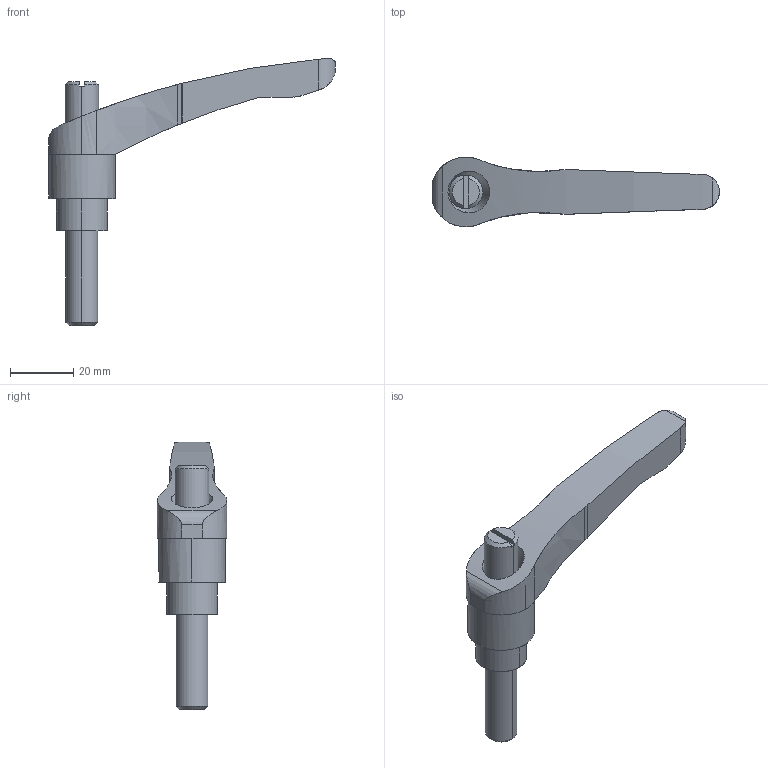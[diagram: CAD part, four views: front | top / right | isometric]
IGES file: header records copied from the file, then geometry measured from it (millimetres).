
Start section: SolidWorks IGES file using analytic representation for surfaces
Global section: file name: X:\11_SW2020-Inv2020\00_全2021-11新製品まで\f\FKRT10X30-BR\fkrt10x30-br.IGS; native system: SolidWorks 2020; preprocessor: SolidWorks 2020; author: ImaoCorp; date: 211026.091721; units: millimetre
Bounding box: 90.51 x 22 x 84.3 mm (x, y, z)
Surface area: 7897 mm2 (no closed solid volume)
Topology: 0 solids, 0 shells, 52 faces, 734 edges, 734 vertices
Faces by surface type: revolution 35, bspline 17
